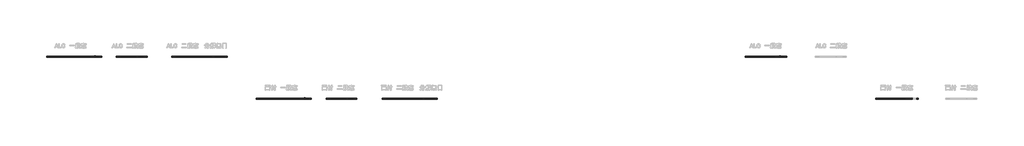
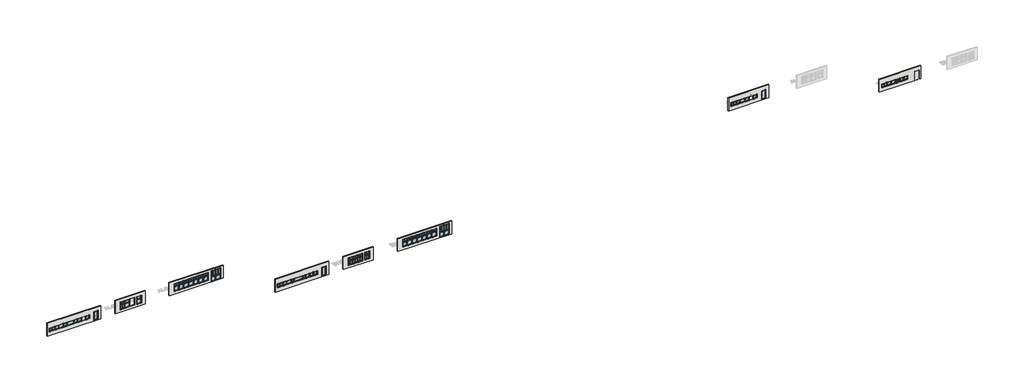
# One storey, part 1 of 9: 48 windows, 8 walls.
"""IFC4 building model written with IfcOpenShell, lengths in millimetres."""

from ifc_helpers import new_model, si_unit, origin, place, context, project, spatial, faceted_brep, transform, mapped, element, save
from components import window_1eb9ea19, window_bbf0031b, window_993b28ac, window_535b2269, window_8a79b492, window_178d841d, window_6aff7770, window_6e653af7, window_23b62082, window_004d7553, window_8a831fd3, window_b402751a, window_4e5b74e6, window_3053c77e, window_9f8f197e, window_47481d52, window_3c39c778, window_92b3f712, window_ac38dc56, window_16896372, window_000c6770, window_7f8bb927, window_2282232d, window_8ae274f2, window_ff05695f, window_f65690d7, window_fbf614af, window_7fd81a2e, window_0b9b19ba, window_3b290d56, window_6e129dcf, window_2540c21f, window_f159a7e3, window_d622e456, window_d42248ff, window_9f836f41, window_452e0843, fix_54cd0e88, fix_653ad6b1, fix_b71f9117, fix_027afd31, fix_fix_c0cfdafb, fix_fix_f5c79427, fix_fix_d4a399a0, fix_fix_ce19e96b

model = new_model("IFC4")

# Units and contexts
model_context = context("Model", 3, world=origin())
ifc_project = project(units=[si_unit("LENGTHUNIT", "METRE", prefix="MILLI")], contexts=[model_context])

# Site, building, storey
site = spatial("IfcSite", under=ifc_project)
building = spatial("IfcBuilding", under=site)
storey = spatial("IfcBuildingStorey", under=building, Name="レベル 1", Elevation=0.0)

# Walls
placement = place(None, origin())
element("IfcWall", 1, ObjectType="一般 - 200 mm", at=placement, inside=storey, context=model_context, shape_type="Brep", body=[
    faceted_brep([(37909.4523685, -7795.2684681, 0.0), (49709.4523685, -7795.2684681, 0.0), (49709.4523685, -7795.2684681, 3000.0), (37909.4523685, -7795.2684681, 3000.0), (38434.4523685, -7795.2684681, 875.0), (38434.4523685, -7795.2684681, 1725.0), (47284.4523685, -7795.2684681, 1725.0), (47284.4523685, -7795.2684681, 875.0), (48204.4523685, -7795.2684681, 2125.0), (49154.4523685, -7795.2684681, 2125.0), (49154.4523685, -7795.2684681, 75.0), (48204.4523685, -7795.2684681, 75.0), (49709.4523685, -7595.2684681, 0.0), (37909.4523685, -7595.2684681, 0.0), (37909.4523685, -7595.2684681, 3000.0), (49709.4523685, -7595.2684681, 3000.0), (38409.4523685, -7595.2684681, 1760.0), (38409.4523685, -7595.2684681, 820.0), (47309.4523685, -7595.2684681, 820.0), (47309.4523685, -7595.2684681, 1760.0), (49179.4523685, -7595.2684681, 2160.0), (48179.4523685, -7595.2684681, 2160.0), (48179.4523685, -7595.2684681, 20.0), (49179.4523685, -7595.2684681, 20.0), (38434.4523685, -7705.2684681, 1725.0), (47284.4523685, -7705.2684681, 1725.0), (38434.4523685, -7705.2684681, 875.0), (47284.4523685, -7705.2684681, 875.0), (38409.4523685, -7705.2684681, 1760.0), (47309.4523685, -7705.2684681, 1760.0), (38409.4523685, -7705.2684681, 820.0), (47309.4523685, -7705.2684681, 820.0), (48204.4523685, -7705.2684681, 2125.0), (49154.4523685, -7705.2684681, 2125.0), (49154.4523685, -7705.2684681, 75.0), (48204.4523685, -7705.2684681, 75.0), (49179.4523685, -7705.2684681, 2160.0), (48179.4523685, -7705.2684681, 2160.0), (48179.4523685, -7705.2684681, 20.0), (49179.4523685, -7705.2684681, 20.0)], [[[0, 1, 2, 3], [4, 5, 6, 7], [8, 9, 10, 11]], [[12, 13, 14, 15], [16, 17, 18, 19], [20, 21, 22, 23]], [[1, 0, 13, 12]], [[2, 1, 12, 15]], [[3, 2, 15, 14]], [[0, 3, 14, 13]], [[5, 24, 25, 6]], [[26, 4, 7, 27]], [[26, 24, 5, 4]], [[28, 16, 19, 29]], [[17, 30, 31, 18]], [[30, 28, 29, 31], [24, 26, 27, 25]], [[16, 28, 30, 17]], [[25, 27, 7, 6]], [[29, 19, 18, 31]], [[32, 33, 9, 8]], [[34, 35, 11, 10]], [[35, 32, 8, 11]], [[33, 34, 10, 9]], [[20, 36, 37, 21]], [[22, 38, 39, 23]], [[37, 36, 39, 38], [33, 32, 35, 34]], [[36, 20, 23, 39]], [[21, 37, 38, 22]]]),
])
element("IfcWall", 2, ObjectType="一般 - 200 mm", at=placement, inside=storey, context=model_context, shape_type="Brep", body=[
    faceted_brep([(52909.4523685, -7795.2684681, 0.0), (59509.4523685, -7795.2684681, 0.0), (59509.4523685, -7795.2684681, 3000.0), (52909.4523685, -7795.2684681, 3000.0), (57644.4523685, -7795.2684681, 2325.0), (58694.4523685, -7795.2684681, 2325.0), (58694.4523685, -7795.2684681, 575.0), (57644.4523685, -7795.2684681, 575.0), (57194.4523685, -7795.2684681, 575.0), (53984.4523685, -7795.2684681, 575.0), (53984.4523685, -7795.2684681, 2325.0), (57194.4523685, -7795.2684681, 2325.0), (59509.4523685, -7595.2684681, 0.0), (52909.4523685, -7595.2684681, 0.0), (52909.4523685, -7595.2684681, 3000.0), (59509.4523685, -7595.2684681, 3000.0), (58719.4523685, -7595.2684681, 2360.0), (57619.4523685, -7595.2684681, 2360.0), (57619.4523685, -7595.2684681, 520.0), (58719.4523685, -7595.2684681, 520.0), (57219.4523685, -7595.2684681, 2360.0), (53959.4523685, -7595.2684681, 2360.0), (53959.4523685, -7595.2684681, 520.0), (57219.4523685, -7595.2684681, 520.0), (58694.4523685, -7705.2684681, 2325.0), (57644.4523685, -7705.2684681, 2325.0), (57644.4523685, -7705.2684681, 575.0), (58694.4523685, -7705.2684681, 575.0), (58719.4523685, -7705.2684681, 2360.0), (57619.4523685, -7705.2684681, 2360.0), (57619.4523685, -7705.2684681, 520.0), (58719.4523685, -7705.2684681, 520.0), (53959.4523685, -7705.2684681, 520.0), (53959.4523685, -7705.2684681, 2360.0), (57219.4523685, -7705.2684681, 2360.0), (57219.4523685, -7705.2684681, 520.0), (57194.4523685, -7705.2684681, 575.0), (57194.4523685, -7705.2684681, 2325.0), (53984.4523685, -7705.2684681, 2325.0), (53984.4523685, -7705.2684681, 575.0)], [[[0, 1, 2, 3], [4, 5, 6, 7], [8, 9, 10, 11]], [[12, 13, 14, 15], [16, 17, 18, 19], [20, 21, 22, 23]], [[1, 0, 13, 12]], [[2, 1, 12, 15]], [[3, 2, 15, 14]], [[0, 3, 14, 13]], [[24, 5, 4, 25]], [[26, 7, 6, 27]], [[25, 4, 7, 26]], [[5, 24, 27, 6]], [[16, 28, 29, 17]], [[18, 30, 31, 19]], [[29, 28, 31, 30], [24, 25, 26, 27]], [[32, 33, 34, 35], [36, 37, 38, 39]], [[10, 38, 37, 11]], [[36, 39, 9, 8]], [[39, 38, 10, 9]], [[34, 33, 21, 20]], [[32, 35, 23, 22]], [[33, 32, 22, 21]], [[11, 37, 36, 8]], [[34, 20, 23, 35]], [[17, 29, 30, 18]], [[28, 16, 19, 31]]]),
])
element("IfcWall", 3, ObjectType="一般 - 200 mm", at=placement, inside=storey, context=model_context, shape_type="Brep", body=[
    faceted_brep([(64809.4523685, -7795.2684681, 0.0), (76709.4523685, -7795.2684681, 0.0), (76709.4523685, -7795.2684681, 3000.0), (64809.4523685, -7795.2684681, 3000.0), (74004.4523685, -7795.2684681, 75.0), (74004.4523685, -7795.2684681, 2625.0), (76134.4523685, -7795.2684681, 2625.0), (76134.4523685, -7795.2684681, 75.0), (73414.4523685, -7795.2684681, 665.0), (65884.4523685, -7795.2684681, 665.0), (65884.4523685, -7795.2684681, 2425.0), (73414.4523685, -7795.2684681, 2425.0), (76709.4523685, -7595.2684681, 0.0), (64809.4523685, -7595.2684681, 0.0), (64809.4523685, -7595.2684681, 3000.0), (76709.4523685, -7595.2684681, 3000.0), (73439.4523685, -7595.2684681, 2460.0), (65859.4523685, -7595.2684681, 2460.0), (65859.4523685, -7595.2684681, 610.0), (73439.4523685, -7595.2684681, 610.0), (73979.4523685, -7595.2684681, 2660.0), (73979.4523685, -7595.2684681, 20.0), (76159.4523685, -7595.2684681, 20.0), (76159.4523685, -7595.2684681, 2660.0), (65884.4523685, -7705.2684681, 665.0), (65884.4523685, -7705.2684681, 2425.0), (65859.4523685, -7705.2684681, 2460.0), (65859.4523685, -7705.2684681, 610.0), (73414.4523685, -7705.2684681, 2425.0), (73414.4523685, -7705.2684681, 665.0), (73439.4523685, -7705.2684681, 2460.0), (73439.4523685, -7705.2684681, 610.0), (74004.4523685, -7705.2684681, 75.0), (74004.4523685, -7705.2684681, 2625.0), (73979.4523685, -7705.2684681, 2660.0), (73979.4523685, -7705.2684681, 20.0), (76134.4523685, -7705.2684681, 2625.0), (76134.4523685, -7705.2684681, 75.0), (76159.4523685, -7705.2684681, 2660.0), (76159.4523685, -7705.2684681, 20.0)], [[[0, 1, 2, 3], [4, 5, 6, 7], [8, 9, 10, 11]], [[12, 13, 14, 15], [16, 17, 18, 19], [20, 21, 22, 23]], [[1, 0, 13, 12]], [[2, 1, 12, 15]], [[3, 2, 15, 14]], [[0, 3, 14, 13]], [[24, 25, 10, 9]], [[17, 26, 27, 18]], [[10, 25, 28, 11]], [[24, 9, 8, 29]], [[26, 17, 16, 30]], [[18, 27, 31, 19]], [[26, 30, 31, 27], [28, 25, 24, 29]], [[11, 28, 29, 8]], [[30, 16, 19, 31]], [[32, 33, 5, 4]], [[20, 34, 35, 21]], [[5, 33, 36, 6]], [[32, 4, 7, 37]], [[6, 36, 37, 7]], [[34, 20, 23, 38]], [[21, 35, 39, 22]], [[35, 34, 38, 39], [33, 32, 37, 36]], [[38, 23, 22, 39]]]),
])
element("IfcWall", 4, ObjectType="一般 - 200 mm", at=placement, inside=storey, context=model_context, shape_type="Brep", body=[
    faceted_brep([(82909.4523685, -16795.2684681, 0.0), (94709.4523685, -16795.2684681, 0.0), (94709.4523685, -16795.2684681, 3000.0), (82909.4523685, -16795.2684681, 3000.0), (83434.4523685, -16795.2684681, 875.0), (83434.4523685, -16795.2684681, 1725.0), (92284.4523685, -16795.2684681, 1725.0), (92284.4523685, -16795.2684681, 875.0), (93204.4523685, -16795.2684681, 2125.0), (94154.4523685, -16795.2684681, 2125.0), (94154.4523685, -16795.2684681, 75.0), (93204.4523685, -16795.2684681, 75.0), (94709.4523685, -16595.2684681, 0.0), (82909.4523685, -16595.2684681, 0.0), (82909.4523685, -16595.2684681, 3000.0), (94709.4523685, -16595.2684681, 3000.0), (83409.4523685, -16595.2684681, 1755.0), (83409.4523685, -16595.2684681, 820.0), (92309.4523685, -16595.2684681, 820.0), (92309.4523685, -16595.2684681, 1755.0), (94179.4523685, -16595.2684681, 2155.0), (93179.4523685, -16595.2684681, 2155.0), (93179.4523685, -16595.2684681, 20.0), (94179.4523685, -16595.2684681, 20.0), (83434.4523685, -16685.2684681, 1725.0), (92284.4523685, -16685.2684681, 1725.0), (83434.4523685, -16685.2684681, 875.0), (92284.4523685, -16685.2684681, 875.0), (83409.4523685, -16685.2684681, 1755.0), (92309.4523685, -16685.2684681, 1755.0), (83409.4523685, -16685.2684681, 820.0), (92309.4523685, -16685.2684681, 820.0), (93204.4523685, -16685.2684681, 2125.0), (94154.4523685, -16685.2684681, 2125.0), (94154.4523685, -16685.2684681, 75.0), (93204.4523685, -16685.2684681, 75.0), (94179.4523685, -16685.2684681, 2155.0), (93179.4523685, -16685.2684681, 2155.0), (93179.4523685, -16685.2684681, 20.0), (94179.4523685, -16685.2684681, 20.0)], [[[0, 1, 2, 3], [4, 5, 6, 7], [8, 9, 10, 11]], [[12, 13, 14, 15], [16, 17, 18, 19], [20, 21, 22, 23]], [[1, 0, 13, 12]], [[2, 1, 12, 15]], [[3, 2, 15, 14]], [[0, 3, 14, 13]], [[5, 24, 25, 6]], [[26, 4, 7, 27]], [[26, 24, 5, 4]], [[28, 16, 19, 29]], [[17, 30, 31, 18]], [[30, 28, 29, 31], [24, 26, 27, 25]], [[16, 28, 30, 17]], [[25, 27, 7, 6]], [[29, 19, 18, 31]], [[32, 33, 9, 8]], [[34, 35, 11, 10]], [[35, 32, 8, 11]], [[33, 34, 10, 9]], [[20, 36, 37, 21]], [[22, 38, 39, 23]], [[37, 36, 39, 38], [33, 32, 35, 34]], [[21, 37, 38, 22]], [[36, 20, 23, 39]]]),
])
element("IfcWall", 5, ObjectType="一般 - 200 mm", at=placement, inside=storey, context=model_context, shape_type="Brep", body=[
    faceted_brep([(97909.4523685, -16795.2684681, 8.2451676), (104509.4523685, -16795.2684681, 8.2451676), (104509.4523685, -16795.2684681, 3000.0), (97909.4523685, -16795.2684681, 3000.0), (102644.4523685, -16795.2684681, 2325.0), (103694.4523685, -16795.2684681, 2325.0), (103694.4523685, -16795.2684681, 575.0), (102644.4523685, -16795.2684681, 575.0), (102194.4523685, -16795.2684681, 575.0), (98984.4523685, -16795.2684681, 575.0), (98984.4523685, -16795.2684681, 2325.0), (102194.4523685, -16795.2684681, 2325.0), (104509.4523685, -16595.2684681, 8.2451676), (97909.4523685, -16595.2684681, 8.2451676), (97909.4523685, -16595.2684681, 3000.0), (104509.4523685, -16595.2684681, 3000.0), (102219.4523685, -16595.2684681, 2355.0), (98959.4523685, -16595.2684681, 2355.0), (98959.4523685, -16595.2684681, 520.0), (102219.4523685, -16595.2684681, 520.0), (103719.4523685, -16595.2684681, 2355.0), (102619.4523685, -16595.2684681, 2355.0), (102619.4523685, -16595.2684681, 520.0), (103719.4523685, -16595.2684681, 520.0), (98984.4523685, -16685.2684681, 2325.0), (102194.4523685, -16685.2684681, 2325.0), (98984.4523685, -16685.2684681, 575.0), (102194.4523685, -16685.2684681, 575.0), (98959.4523685, -16685.2684681, 2355.0), (102219.4523685, -16685.2684681, 2355.0), (98959.4523685, -16685.2684681, 520.0), (102219.4523685, -16685.2684681, 520.0), (103694.4523685, -16685.2684681, 2325.0), (102644.4523685, -16685.2684681, 2325.0), (102644.4523685, -16685.2684681, 575.0), (103694.4523685, -16685.2684681, 575.0), (103719.4523685, -16685.2684681, 2355.0), (102619.4523685, -16685.2684681, 2355.0), (102619.4523685, -16685.2684681, 520.0), (103719.4523685, -16685.2684681, 520.0)], [[[0, 1, 2, 3], [4, 5, 6, 7], [8, 9, 10, 11]], [[12, 13, 14, 15], [16, 17, 18, 19], [20, 21, 22, 23]], [[1, 0, 13, 12]], [[2, 1, 12, 15]], [[3, 2, 15, 14]], [[0, 3, 14, 13]], [[10, 24, 25, 11]], [[26, 9, 8, 27]], [[24, 10, 9, 26]], [[28, 17, 16, 29]], [[18, 30, 31, 19]], [[28, 29, 31, 30], [26, 27, 25, 24]], [[32, 5, 4, 33]], [[34, 7, 6, 35]], [[33, 4, 7, 34]], [[5, 32, 35, 6]], [[20, 36, 37, 21]], [[22, 38, 39, 23]], [[37, 36, 39, 38], [32, 33, 34, 35]], [[30, 18, 17, 28]], [[11, 25, 27, 8]], [[19, 31, 29, 16]], [[21, 37, 38, 22]], [[36, 20, 23, 39]]]),
])
element("IfcWall", 6, ObjectType="一般 - 200 mm", at=placement, inside=storey, context=model_context, shape_type="Brep", body=[
    faceted_brep([(109909.4523685, -16795.2684681, 0.0), (121809.4523685, -16795.2684681, 0.0), (121809.4523685, -16795.2684681, 3000.0), (109909.4523685, -16795.2684681, 3000.0), (119104.4523685, -16795.2684681, 75.0), (119104.4523685, -16795.2684681, 2625.0), (121234.4523685, -16795.2684681, 2625.0), (121234.4523685, -16795.2684681, 75.0), (118514.4523685, -16795.2684681, 665.0), (110984.4523685, -16795.2684681, 665.0), (110984.4523685, -16795.2684681, 2425.0), (118514.4523685, -16795.2684681, 2425.0), (121809.4523685, -16595.2684681, 0.0), (109909.4523685, -16595.2684681, 0.0), (109909.4523685, -16595.2684681, 3000.0), (121809.4523685, -16595.2684681, 3000.0), (118539.4523685, -16595.2684681, 2455.0), (110959.4523685, -16595.2684681, 2455.0), (110959.4523685, -16595.2684681, 610.0), (118539.4523685, -16595.2684681, 610.0), (119079.4523685, -16595.2684681, 2655.0), (119079.4523685, -16595.2684681, 20.0), (121259.4523685, -16595.2684681, 20.0), (121259.4523685, -16595.2684681, 2655.0), (110984.4523685, -16685.2684681, 2425.0), (118514.4523685, -16685.2684681, 2425.0), (110984.4523685, -16685.2684681, 665.0), (118514.4523685, -16685.2684681, 665.0), (110959.4523685, -16685.2684681, 2455.0), (118539.4523685, -16685.2684681, 2455.0), (110959.4523685, -16685.2684681, 610.0), (118539.4523685, -16685.2684681, 610.0), (121234.4523685, -16685.2684681, 2625.0), (121234.4523685, -16685.2684681, 75.0), (119104.4523685, -16685.2684681, 75.0), (119104.4523685, -16685.2684681, 2625.0), (119079.4523685, -16685.2684681, 2655.0), (119079.4523685, -16685.2684681, 20.0), (121259.4523685, -16685.2684681, 2655.0), (121259.4523685, -16685.2684681, 20.0)], [[[0, 1, 2, 3], [4, 5, 6, 7], [8, 9, 10, 11]], [[12, 13, 14, 15], [16, 17, 18, 19], [20, 21, 22, 23]], [[1, 0, 13, 12]], [[2, 1, 12, 15]], [[3, 2, 15, 14]], [[0, 3, 14, 13]], [[10, 24, 25, 11]], [[26, 9, 8, 27]], [[24, 10, 9, 26]], [[28, 17, 16, 29]], [[18, 30, 31, 19]], [[31, 30, 28, 29], [26, 27, 25, 24]], [[32, 33, 7, 6]], [[30, 18, 17, 28]], [[25, 27, 8, 11]], [[29, 16, 19, 31]], [[34, 35, 5, 4]], [[20, 36, 37, 21]], [[5, 35, 32, 6]], [[34, 4, 7, 33]], [[23, 38, 36, 20]], [[39, 22, 21, 37]], [[37, 36, 38, 39], [35, 34, 33, 32]], [[22, 39, 38, 23]]]),
])
element("IfcWall", 7, ObjectType="一般 - 200 mm", at=placement, inside=storey, context=model_context, shape_type="Brep", body=[
    faceted_brep([(187909.4523685, -7795.2684681, 0.0), (196809.4523685, -7795.2684681, 0.0), (196809.4523685, -7795.2684681, 3000.0), (187909.4523685, -7795.2684681, 3000.0), (188434.4523685, -7795.2684681, 875.0), (188434.4523685, -7795.2684681, 1725.0), (194204.4523685, -7795.2684681, 1725.0), (194204.4523685, -7795.2684681, 875.0), (195204.4523685, -7795.2684681, 2125.0), (196154.4523685, -7795.2684681, 2125.0), (196154.4523685, -7795.2684681, 75.0), (195204.4523685, -7795.2684681, 75.0), (196809.4523685, -7595.2684681, 0.0), (187909.4523685, -7595.2684681, 0.0), (187909.4523685, -7595.2684681, 3000.0), (196809.4523685, -7595.2684681, 3000.0), (188409.4523685, -7595.2684681, 1760.0), (188409.4523685, -7595.2684681, 820.0), (194229.4523685, -7595.2684681, 820.0), (194229.4523685, -7595.2684681, 1760.0), (196179.4523685, -7595.2684681, 2160.0), (195179.4523685, -7595.2684681, 2160.0), (195179.4523685, -7595.2684681, 20.0), (196179.4523685, -7595.2684681, 20.0), (188434.4523685, -7705.2684681, 875.0), (194204.4523685, -7705.2684681, 875.0), (188434.4523685, -7705.2684681, 1725.0), (194204.4523685, -7705.2684681, 1725.0), (194229.4523685, -7705.2684681, 1760.0), (188409.4523685, -7705.2684681, 1760.0), (194229.4523685, -7705.2684681, 820.0), (188409.4523685, -7705.2684681, 820.0), (195204.4523685, -7705.2684681, 2125.0), (196154.4523685, -7705.2684681, 2125.0), (196154.4523685, -7705.2684681, 75.0), (195204.4523685, -7705.2684681, 75.0), (196179.4523685, -7705.2684681, 2160.0), (195179.4523685, -7705.2684681, 2160.0), (195179.4523685, -7705.2684681, 20.0), (196179.4523685, -7705.2684681, 20.0)], [[[0, 1, 2, 3], [4, 5, 6, 7], [8, 9, 10, 11]], [[12, 13, 14, 15], [16, 17, 18, 19], [20, 21, 22, 23]], [[1, 0, 13, 12]], [[2, 1, 12, 15]], [[3, 2, 15, 14]], [[0, 3, 14, 13]], [[24, 4, 7, 25]], [[5, 26, 27, 6]], [[24, 26, 5, 4]], [[19, 28, 29, 16]], [[30, 18, 17, 31]], [[28, 30, 31, 29], [25, 27, 26, 24]], [[16, 29, 31, 17]], [[27, 25, 7, 6]], [[28, 19, 18, 30]], [[32, 33, 9, 8]], [[34, 35, 11, 10]], [[35, 32, 8, 11]], [[33, 34, 10, 9]], [[20, 36, 37, 21]], [[22, 38, 39, 23]], [[37, 36, 39, 38], [33, 32, 35, 34]], [[21, 37, 38, 22]], [[36, 20, 23, 39]]]),
])
element("IfcWall", 8, ObjectType="一般 - 200 mm", at=placement, inside=storey, context=model_context, shape_type="Brep", body=[
    faceted_brep([(215909.4523685, -16795.2684681, 0.0), (225009.4523685, -16795.2684681, 0.0), (225009.4523685, -16795.2684681, 3000.0), (215909.4523685, -16795.2684681, 3000.0), (216434.4523685, -16795.2684681, 875.0), (216434.4523685, -16795.2684681, 1725.0), (222204.4523685, -16795.2684681, 1725.0), (222204.4523685, -16795.2684681, 875.0), (223704.4523685, -16795.2684681, 2125.0), (224654.4523685, -16795.2684681, 2125.0), (224654.4523685, -16795.2684681, 75.0), (223704.4523685, -16795.2684681, 75.0), (225009.4523685, -16595.2684681, 0.0), (215909.4523685, -16595.2684681, 0.0), (215909.4523685, -16595.2684681, 3000.0), (225009.4523685, -16595.2684681, 3000.0), (216409.4523685, -16595.2684681, 1755.0), (216409.4523685, -16595.2684681, 820.0), (222229.4523685, -16595.2684681, 820.0), (222229.4523685, -16595.2684681, 1755.0), (224679.4523685, -16595.2684681, 2155.0), (223679.4523685, -16595.2684681, 2155.0), (223679.4523685, -16595.2684681, 20.0), (224679.4523685, -16595.2684681, 20.0), (216434.4523685, -16685.2684681, 1725.0), (222204.4523685, -16685.2684681, 1725.0), (216434.4523685, -16685.2684681, 875.0), (222204.4523685, -16685.2684681, 875.0), (216409.4523685, -16685.2684681, 1755.0), (222229.4523685, -16685.2684681, 1755.0), (216409.4523685, -16685.2684681, 820.0), (222229.4523685, -16685.2684681, 820.0), (223704.4523685, -16685.2684681, 2125.0), (224654.4523685, -16685.2684681, 2125.0), (224654.4523685, -16685.2684681, 75.0), (223704.4523685, -16685.2684681, 75.0), (224679.4523685, -16685.2684681, 2155.0), (223679.4523685, -16685.2684681, 2155.0), (223679.4523685, -16685.2684681, 20.0), (224679.4523685, -16685.2684681, 20.0)], [[[0, 1, 2, 3], [4, 5, 6, 7], [8, 9, 10, 11]], [[12, 13, 14, 15], [16, 17, 18, 19], [20, 21, 22, 23]], [[1, 0, 13, 12]], [[2, 1, 12, 15]], [[3, 2, 15, 14]], [[0, 3, 14, 13]], [[5, 24, 25, 6]], [[26, 4, 7, 27]], [[26, 24, 5, 4]], [[28, 16, 19, 29]], [[17, 30, 31, 18]], [[30, 28, 29, 31], [24, 26, 27, 25]], [[16, 28, 30, 17]], [[25, 27, 7, 6]], [[29, 19, 18, 31]], [[32, 33, 9, 8]], [[34, 35, 11, 10]], [[35, 32, 8, 11]], [[33, 34, 10, 9]], [[20, 36, 37, 21]], [[22, 38, 39, 23]], [[37, 36, 39, 38], [33, 32, 35, 34]], [[21, 37, 38, 22]], [[36, 20, 23, 39]]]),
])

# Windows
window_shape = window_1eb9ea19(model_context)
element("IfcWindow", 9, ObjectType="FNSⅡ100R_非防火_ALC枠_単窓 : 隠蔽突出排煙", at=placement, inside=storey, context=model_context, shape_type="MappedRepresentation", body=[
    mapped(window_shape, transform((46859.4523685, -7695.2684681, 0.0), x_axis=(1.0, 0.0, 0.0), y_axis=(0.0, 1.0, 0.0), z_axis=(0.0, 0.0, 1.0))),
])
window_2_shape = window_bbf0031b(model_context)
element("IfcWindow", 10, ObjectType="FNSⅡ100R_非防火_ALC枠_単窓 : 引違", at=placement, inside=storey, context=model_context, shape_type="MappedRepresentation", body=[
    mapped(window_2_shape, transform((39059.4523685, -7695.2684681, 0.0), x_axis=(1.0, 0.0, 0.0), y_axis=(0.0, 1.0, 0.0), z_axis=(0.0, 0.0, 1.0))),
])
window_3_shape = window_993b28ac(model_context)
element("IfcWindow", 11, ObjectType="FNSⅡ100R_非防火_ALC枠_単窓 : 外動片引", at=placement, inside=storey, context=model_context, shape_type="MappedRepresentation", body=[
    mapped(window_3_shape, transform((40639.4523685, -7695.2684681, 0.0), x_axis=(1.0, 0.0, 0.0), y_axis=(0.0, 1.0, 0.0), z_axis=(0.0, 0.0, 1.0))),
])
window_4_shape = window_535b2269(model_context)
element("IfcWindow", 12, ObjectType="FNSⅡ100R_非防火_ALC枠_単窓 : 両袖片引", at=placement, inside=storey, context=model_context, shape_type="MappedRepresentation", body=[
    mapped(window_4_shape, transform((43119.4523685, -7695.2684681, 0.0), x_axis=(1.0, 0.0, 0.0), y_axis=(0.0, 1.0, 0.0), z_axis=(0.0, 0.0, 1.0))),
])
window_5_shape = window_8a79b492(model_context)
element("IfcWindow", 13, ObjectType="FNSⅡ100R_非防火_ALC枠_単窓 : 片開き框ドア", at=placement, inside=storey, context=model_context, shape_type="MappedRepresentation", body=[
    mapped(window_5_shape, transform((48679.4523685, -7695.2684681, -800.0), x_axis=(1.0, 0.0, 0.0), y_axis=(0.0, 1.0, 0.0), z_axis=(0.0, 0.0, 1.0))),
])
window_6_shape = window_178d841d(model_context)
element("IfcWindow", 14, ObjectType="FNSⅡ100R_非防火_面付枠_単窓 : 隠蔽突出排煙", at=placement, inside=storey, context=model_context, shape_type="MappedRepresentation", body=[
    mapped(window_6_shape, transform((91859.4523685, -16695.2684681, 0.0), x_axis=(1.0, 0.0, 0.0), y_axis=(0.0, 1.0, 0.0), z_axis=(0.0, 0.0, 1.0))),
])
window_7_shape = window_6aff7770(model_context)
element("IfcWindow", 15, ObjectType="FNSⅡ100R_非防火_面付枠_単窓 : 引違", at=placement, inside=storey, context=model_context, shape_type="MappedRepresentation", body=[
    mapped(window_7_shape, transform((84059.4523685, -16695.2684681, 0.0), x_axis=(1.0, 0.0, 0.0), y_axis=(0.0, 1.0, 0.0), z_axis=(0.0, 0.0, 1.0))),
])
window_8_shape = window_6e653af7(model_context)
element("IfcWindow", 16, ObjectType="FNSⅡ100R_非防火_面付枠_単窓 : 外動片引", at=placement, inside=storey, context=model_context, shape_type="MappedRepresentation", body=[
    mapped(window_8_shape, transform((85639.4523685, -16695.2684681, 0.0), x_axis=(1.0, 0.0, 0.0), y_axis=(0.0, 1.0, 0.0), z_axis=(0.0, 0.0, 1.0))),
])
window_9_shape = window_23b62082(model_context)
element("IfcWindow", 17, ObjectType="FNSⅡ100R_非防火_面付枠_単窓 : 両袖片引", at=placement, inside=storey, context=model_context, shape_type="MappedRepresentation", body=[
    mapped(window_9_shape, transform((88119.4523685, -16695.2684681, 0.0), x_axis=(1.0, 0.0, 0.0), y_axis=(0.0, 1.0, 0.0), z_axis=(0.0, 0.0, 1.0))),
])
window_10_shape = window_004d7553(model_context)
element("IfcWindow", 18, ObjectType="FNSⅡ100R_非防火_面付枠_単窓 : たてすべりだし", at=placement, inside=storey, context=model_context, shape_type="MappedRepresentation", body=[
    mapped(window_10_shape, transform((90979.4523685, -16695.2684681, 0.0), x_axis=(1.0, 0.0, 0.0), y_axis=(0.0, 1.0, 0.0), z_axis=(0.0, 0.0, 1.0))),
])
window_11_shape = window_8a831fd3(model_context)
element("IfcWindow", 19, ObjectType="FNSⅡ100R_非防火_面付枠_単窓 : 片開き框ドア", at=placement, inside=storey, context=model_context, shape_type="MappedRepresentation", body=[
    mapped(window_11_shape, transform((93679.4523685, -16695.2684681, -800.0), x_axis=(1.0, 0.0, 0.0), y_axis=(0.0, 1.0, 0.0), z_axis=(0.0, 0.0, 1.0))),
])
window_12_shape = window_b402751a(model_context)
element("IfcWindow", 20, ObjectType="FNSⅡ100R_非防火_面付枠_段窓_分解無目 : 引違/引違", at=placement, inside=storey, context=model_context, shape_type="MappedRepresentation", body=[
    mapped(window_12_shape, transform((111509.4523685, -16695.2684681, -210.0), x_axis=(1.0, 0.0, 0.0), y_axis=(0.0, 1.0, 0.0), z_axis=(0.0, 0.0, 1.0))),
])
window_13_shape = window_4e5b74e6(model_context)
element("IfcWindow", 21, ObjectType="FNSⅡ100R_非防火_面付枠_段窓_分解無目 : FIX/引違", at=placement, inside=storey, context=model_context, shape_type="MappedRepresentation", body=[
    mapped(window_13_shape, transform((112589.4523685, -16695.2684681, -210.0), x_axis=(1.0, 0.0, 0.0), y_axis=(0.0, 1.0, 0.0), z_axis=(0.0, 0.0, 1.0))),
])
window_14_shape = window_3053c77e(model_context)
element("IfcWindow", 22, ObjectType="FNSⅡ100R_非防火_面付枠_段窓_分解無目 : 隠蔽式突出排煙/引違", at=placement, inside=storey, context=model_context, shape_type="MappedRepresentation", body=[
    mapped(window_14_shape, transform((113669.4523685, -16695.2684681, -210.0), x_axis=(1.0, 0.0, 0.0), y_axis=(0.0, 1.0, 0.0), z_axis=(0.0, 0.0, 1.0))),
])
window_15_shape = window_9f8f197e(model_context)
element("IfcWindow", 23, ObjectType="FNSⅡ100R_非防火_面付枠_段窓_分解無目 : 引違/FIX", at=placement, inside=storey, context=model_context, shape_type="MappedRepresentation", body=[
    mapped(window_15_shape, transform((114749.4523685, -16695.2684681, -210.0), x_axis=(1.0, 0.0, 0.0), y_axis=(0.0, 1.0, 0.0), z_axis=(0.0, 0.0, 1.0))),
])
window_16_shape = window_47481d52(model_context)
element("IfcWindow", 24, ObjectType="FNSⅡ100R_非防火_面付枠_段窓_分解無目 : たてすべりだし/FIX", at=placement, inside=storey, context=model_context, shape_type="MappedRepresentation", body=[
    mapped(window_16_shape, transform((116909.4523685, -16695.2684681, -210.0), x_axis=(1.0, 0.0, 0.0), y_axis=(0.0, 1.0, 0.0), z_axis=(0.0, 0.0, 1.0))),
])
window_17_shape = window_3c39c778(model_context)
element("IfcWindow", 25, ObjectType="FNSⅡ100R_非防火_面付枠_段窓_分解無目 : 隠蔽突出排煙/框ドア", at=placement, inside=storey, context=model_context, shape_type="MappedRepresentation", body=[
    mapped(window_17_shape, transform((120709.4523685, -16695.2684681, -800.0), x_axis=(1.0, 0.0, 0.0), y_axis=(0.0, 1.0, 0.0), z_axis=(0.0, 0.0, 1.0))),
])
window_18_shape = window_92b3f712(model_context)
element("IfcWindow", 26, ObjectType="FNSⅡ100R_非防火_面付枠_段窓_分解無目 : FIX/框ドア", at=placement, inside=storey, context=model_context, shape_type="MappedRepresentation", body=[
    mapped(window_18_shape, transform((119629.4523685, -16695.2684681, -800.0), x_axis=(1.0, 0.0, 0.0), y_axis=(0.0, 1.0, 0.0), z_axis=(0.0, 0.0, 1.0))),
])
window_19_shape = window_ac38dc56(model_context)
element("IfcWindow", 27, ObjectType="FNSⅡ100R_非防火_面付枠_段窓_分解無目 : 隠蔽突出排煙/FIX", at=placement, inside=storey, context=model_context, shape_type="MappedRepresentation", body=[
    mapped(window_19_shape, transform((117989.4523685, -16695.2684681, -210.0), x_axis=(1.0, 0.0, 0.0), y_axis=(0.0, 1.0, 0.0), z_axis=(0.0, 0.0, 1.0))),
])
window_20_shape = window_16896372(model_context)
element("IfcWindow", 28, ObjectType="FNSⅡ100R_非防火_ALC枠_段窓 : 引違/引違", at=placement, inside=storey, context=model_context, shape_type="MappedRepresentation", body=[
    mapped(window_20_shape, transform((54509.4523685, -7695.2684681, -300.0), x_axis=(1.0, 0.0, 0.0), y_axis=(0.0, 1.0, 0.0), z_axis=(0.0, 0.0, 1.0))),
])
window_21_shape = window_000c6770(model_context)
element("IfcWindow", 29, ObjectType="FNSⅡ100R_非防火_ALC枠_段窓 : FIX/FIX 単", at=placement, inside=storey, context=model_context, shape_type="MappedRepresentation", body=[
    mapped(window_21_shape, transform((58169.4523685, -7695.2684681, -300.0), x_axis=(1.0, 0.0, 0.0), y_axis=(0.0, 1.0, 0.0), z_axis=(0.0, 0.0, 1.0))),
])
window_22_shape = window_7f8bb927(model_context)
element("IfcWindow", 30, ObjectType="FNSⅡ100R_非防火_ALC枠_段窓_分解無目 : FIX/引違", at=placement, inside=storey, context=model_context, shape_type="MappedRepresentation", body=[
    mapped(window_22_shape, transform((67489.4523685, -7695.2684681, -210.0), x_axis=(1.0, 0.0, 0.0), y_axis=(0.0, 1.0, 0.0), z_axis=(0.0, 0.0, 1.0))),
])
window_23_shape = window_2282232d(model_context)
element("IfcWindow", 31, ObjectType="FNSⅡ100R_非防火_ALC枠_段窓_分解無目 : 隠蔽突出排煙/框ドア", at=placement, inside=storey, context=model_context, shape_type="MappedRepresentation", body=[
    mapped(window_23_shape, transform((75609.4523685, -7695.2684681, -800.0), x_axis=(1.0, 0.0, 0.0), y_axis=(0.0, 1.0, 0.0), z_axis=(0.0, 0.0, 1.0))),
])
window_24_shape = window_8ae274f2(model_context)
element("IfcWindow", 32, ObjectType="FNSⅡ100R_非防火_ALC枠_段窓_分解無目 : FIX/框ドア", at=placement, inside=storey, context=model_context, shape_type="MappedRepresentation", body=[
    mapped(window_24_shape, transform((74529.4523685, -7695.2684681, -800.0), x_axis=(1.0, 0.0, 0.0), y_axis=(0.0, 1.0, 0.0), z_axis=(0.0, 0.0, 1.0))),
])
window_25_shape = window_ff05695f(model_context)
element("IfcWindow", 33, ObjectType="FNSⅡ100R_非防火_ALC枠_段窓_分解無目 : 隠蔽突出排煙/FIX", at=placement, inside=storey, context=model_context, shape_type="MappedRepresentation", body=[
    mapped(window_25_shape, transform((72889.4523685, -7695.2684681, -210.0), x_axis=(1.0, 0.0, 0.0), y_axis=(0.0, 1.0, 0.0), z_axis=(0.0, 0.0, 1.0))),
])
window_26_shape = window_f65690d7(model_context)
element("IfcWindow", 34, ObjectType="FNSⅡ100R_非防火_ALC枠_段窓_分解無目 : 引違/引違", at=placement, inside=storey, context=model_context, shape_type="MappedRepresentation", body=[
    mapped(window_26_shape, transform((66409.4523685, -7695.2684681, -210.0), x_axis=(1.0, 0.0, 0.0), y_axis=(0.0, 1.0, 0.0), z_axis=(0.0, 0.0, 1.0))),
])
element("IfcWindow", 35, ObjectType="FNSⅡ100R_非防火_ALC枠_段窓_分解無目 : たてすべりだし/FIX", at=placement, inside=storey, context=model_context, shape_type="MappedRepresentation", body=[
    mapped(window_22_shape, transform((71809.4523685, -7695.2684681, -210.0), x_axis=(1.0, 0.0, 0.0), y_axis=(0.0, 1.0, 0.0), z_axis=(0.0, 0.0, 1.0))),
])
window_27_shape = window_fbf614af(model_context)
element("IfcWindow", 36, ObjectType="FNSⅡ100R_非防火_ALC枠_段窓_分解無目 : 引違/FIX", at=placement, inside=storey, context=model_context, shape_type="MappedRepresentation", body=[
    mapped(window_27_shape, transform((69649.4523685, -7695.2684681, -210.0), x_axis=(1.0, 0.0, 0.0), y_axis=(0.0, 1.0, 0.0), z_axis=(0.0, 0.0, 1.0))),
])
element("IfcWindow", 37, ObjectType="FNSⅡ100R_非防火_ALC枠_段窓_分解無目 : 隠蔽式突出排煙/引違", at=placement, inside=storey, context=model_context, shape_type="MappedRepresentation", body=[
    mapped(window_22_shape, transform((68569.4523685, -7695.2684681, -210.0), x_axis=(1.0, 0.0, 0.0), y_axis=(0.0, 1.0, 0.0), z_axis=(0.0, 0.0, 1.0))),
])
window_28_shape = window_7fd81a2e(model_context)
element("IfcWindow", 38, ObjectType="FNSⅡ100R_非防火_面付枠_段窓 : 引違/引違", at=placement, inside=storey, context=model_context, shape_type="MappedRepresentation", body=[
    mapped(window_28_shape, transform((99509.4523685, -16695.2684681, -300.0), x_axis=(1.0, 0.0, 0.0), y_axis=(0.0, 1.0, 0.0), z_axis=(0.0, 0.0, 1.0))),
])
window_29_shape = window_0b9b19ba(model_context)
element("IfcWindow", 39, ObjectType="FNSⅡ100R_非防火_面付枠_段窓 : たてすべりだし/FIX", at=placement, inside=storey, context=model_context, shape_type="MappedRepresentation", body=[
    mapped(window_29_shape, transform((101669.4523685, -16695.2684681, -300.0), x_axis=(1.0, 0.0, 0.0), y_axis=(0.0, 1.0, 0.0), z_axis=(0.0, 0.0, 1.0))),
])
window_30_shape = window_3b290d56(model_context)
element("IfcWindow", 40, ObjectType="FNSⅡ100R_非防火_面付枠_段窓 : FIX/FIX 単", at=placement, inside=storey, context=model_context, shape_type="MappedRepresentation", body=[
    mapped(window_30_shape, transform((103169.4523685, -16695.2684681, -300.0), x_axis=(1.0, 0.0, 0.0), y_axis=(0.0, 1.0, 0.0), z_axis=(0.0, 0.0, 1.0))),
])
window_31_shape = window_6e129dcf(model_context)
element("IfcWindow", 41, ObjectType="FNSⅡ100R_個別防火_ALC枠_単窓 : 引違", at=placement, inside=storey, context=model_context, shape_type="MappedRepresentation", body=[
    mapped(window_31_shape, transform((189059.4523685, -7695.2684681, 0.0), x_axis=(1.0, 0.0, 0.0), y_axis=(0.0, 1.0, 0.0), z_axis=(0.0, 0.0, 1.0))),
])
element("IfcWindow", 42, ObjectType="FNSⅡ100R_個別防火_ALC枠_単窓 : 隠蔽突出排煙", at=placement, inside=storey, context=model_context, shape_type="MappedRepresentation", body=[
    mapped(window_shape, transform((193779.4523685, -7695.2684681, 0.0), x_axis=(1.0, 0.0, 0.0), y_axis=(0.0, 1.0, 0.0), z_axis=(0.0, 0.0, 1.0))),
])
window_32_shape = window_2540c21f(model_context)
element("IfcWindow", 43, ObjectType="FNSⅡ100R_個別防火_ALC枠_単窓 : 外動片引", at=placement, inside=storey, context=model_context, shape_type="MappedRepresentation", body=[
    mapped(window_32_shape, transform((190639.4523685, -7695.2684681, 0.0), x_axis=(1.0, 0.0, 0.0), y_axis=(0.0, 1.0, 0.0), z_axis=(0.0, 0.0, 1.0))),
])
window_33_shape = window_f159a7e3(model_context)
element("IfcWindow", 44, ObjectType="FNSⅡ100R_個別防火_ALC枠_単窓 : 片開き框ドア", at=placement, inside=storey, context=model_context, shape_type="MappedRepresentation", body=[
    mapped(window_33_shape, transform((195679.4523685, -7695.2684681, -800.0), x_axis=(1.0, 0.0, 0.0), y_axis=(0.0, 1.0, 0.0), z_axis=(0.0, 0.0, 1.0))),
])
window_34_shape = window_d622e456(model_context)
element("IfcWindow", 45, ObjectType="FNSⅡ100R_個別防火_面付枠_単窓 : 引違", at=placement, inside=storey, context=model_context, shape_type="MappedRepresentation", body=[
    mapped(window_34_shape, transform((217059.4523685, -16695.2684681, 0.0), x_axis=(1.0, 0.0, 0.0), y_axis=(0.0, 1.0, 0.0), z_axis=(0.0, 0.0, 1.0))),
])
window_35_shape = window_d42248ff(model_context)
element("IfcWindow", 46, ObjectType="FNSⅡ100R_個別防火_面付枠_単窓 : 隠蔽突出排煙", at=placement, inside=storey, context=model_context, shape_type="MappedRepresentation", body=[
    mapped(window_35_shape, transform((221779.4523685, -16695.2684681, 0.0), x_axis=(1.0, 0.0, 0.0), y_axis=(0.0, 1.0, 0.0), z_axis=(0.0, 0.0, 1.0))),
])
window_36_shape = window_9f836f41(model_context)
element("IfcWindow", 47, ObjectType="FNSⅡ100R_個別防火_面付枠_単窓 : 外動片引", at=placement, inside=storey, context=model_context, shape_type="MappedRepresentation", body=[
    mapped(window_36_shape, transform((218639.4523685, -16695.2684681, 0.0), x_axis=(1.0, 0.0, 0.0), y_axis=(0.0, 1.0, 0.0), z_axis=(0.0, 0.0, 1.0))),
])
window_37_shape = window_452e0843(model_context)
element("IfcWindow", 48, ObjectType="FNSⅡ100R_個別防火_面付枠_単窓 : たてすべりだし", at=placement, inside=storey, context=model_context, shape_type="MappedRepresentation", body=[
    mapped(window_37_shape, transform((220899.4523685, -16695.2684681, 0.0), x_axis=(1.0, 0.0, 0.0), y_axis=(0.0, 1.0, 0.0), z_axis=(0.0, 0.0, 1.0))),
])
fix_shape = fix_54cd0e88(model_context)
element("IfcWindow", 49, ObjectType="FNSⅡ100R_非防火_ALC枠_単窓 : FIX", at=placement, inside=storey, context=model_context, shape_type="MappedRepresentation", body=[
    mapped(fix_shape, transform((45099.4523685, -7695.2684681, 0.0), x_axis=(1.0, 0.0, 0.0), y_axis=(0.0, 1.0, 0.0), z_axis=(0.0, 0.0, 1.0))),
])
fix_2_shape = fix_653ad6b1(model_context)
element("IfcWindow", 50, ObjectType="FNSⅡ100R_非防火_面付枠_単窓 : FIX", at=placement, inside=storey, context=model_context, shape_type="MappedRepresentation", body=[
    mapped(fix_2_shape, transform((90099.4523685, -16695.2684681, 0.0), x_axis=(1.0, 0.0, 0.0), y_axis=(0.0, 1.0, 0.0), z_axis=(0.0, 0.0, 1.0))),
])
fix_3_shape = fix_b71f9117(model_context)
element("IfcWindow", 51, ObjectType="FNSⅡ100R_個別防火_ALC枠_単窓 : FIX", at=placement, inside=storey, context=model_context, shape_type="MappedRepresentation", body=[
    mapped(fix_3_shape, transform((192019.4523685, -7695.2684681, 0.0), x_axis=(1.0, 0.0, 0.0), y_axis=(0.0, 1.0, 0.0), z_axis=(0.0, 0.0, 1.0))),
])
fix_4_shape = fix_027afd31(model_context)
element("IfcWindow", 52, ObjectType="FNSⅡ100R_個別防火_面付枠_単窓 : FIX", at=placement, inside=storey, context=model_context, shape_type="MappedRepresentation", body=[
    mapped(fix_4_shape, transform((220019.4523685, -16695.2684681, 0.0), x_axis=(1.0, 0.0, 0.0), y_axis=(0.0, 1.0, 0.0), z_axis=(0.0, 0.0, 1.0))),
])
fix_fix_shape = fix_fix_c0cfdafb(model_context)
element("IfcWindow", 53, ObjectType="FNSⅡ100R_非防火_面付枠_段窓_分解無目 : FIX/FIX", at=placement, inside=storey, context=model_context, shape_type="MappedRepresentation", body=[
    mapped(fix_fix_shape, transform((115829.4523685, -16695.2684681, -210.0), x_axis=(1.0, 0.0, 0.0), y_axis=(0.0, 1.0, 0.0), z_axis=(0.0, 0.0, 1.0))),
])
fix_fix_2_shape = fix_fix_f5c79427(model_context)
element("IfcWindow", 54, ObjectType="FNSⅡ100R_非防火_ALC枠_段窓 : FIX/FIX", at=placement, inside=storey, context=model_context, shape_type="MappedRepresentation", body=[
    mapped(fix_fix_2_shape, transform((55589.4523685, -7695.2684681, -300.0), x_axis=(1.0, 0.0, 0.0), y_axis=(0.0, 1.0, 0.0), z_axis=(0.0, 0.0, 1.0))),
])
fix_fix_3_shape = fix_fix_d4a399a0(model_context)
element("IfcWindow", 55, ObjectType="FNSⅡ100R_非防火_ALC枠_段窓_分解無目 : FIX/FIX", at=placement, inside=storey, context=model_context, shape_type="MappedRepresentation", body=[
    mapped(fix_fix_3_shape, transform((70729.4523685, -7695.2684681, -210.0), x_axis=(1.0, 0.0, 0.0), y_axis=(0.0, 1.0, 0.0), z_axis=(0.0, 0.0, 1.0))),
])
fix_fix_4_shape = fix_fix_ce19e96b(model_context)
element("IfcWindow", 56, ObjectType="FNSⅡ100R_非防火_面付枠_段窓 : FIX/FIX", at=placement, inside=storey, context=model_context, shape_type="MappedRepresentation", body=[
    mapped(fix_fix_4_shape, transform((100589.4523685, -16695.2684681, -300.0), x_axis=(1.0, 0.0, 0.0), y_axis=(0.0, 1.0, 0.0), z_axis=(0.0, 0.0, 1.0))),
])

save(model, "model.ifc")
